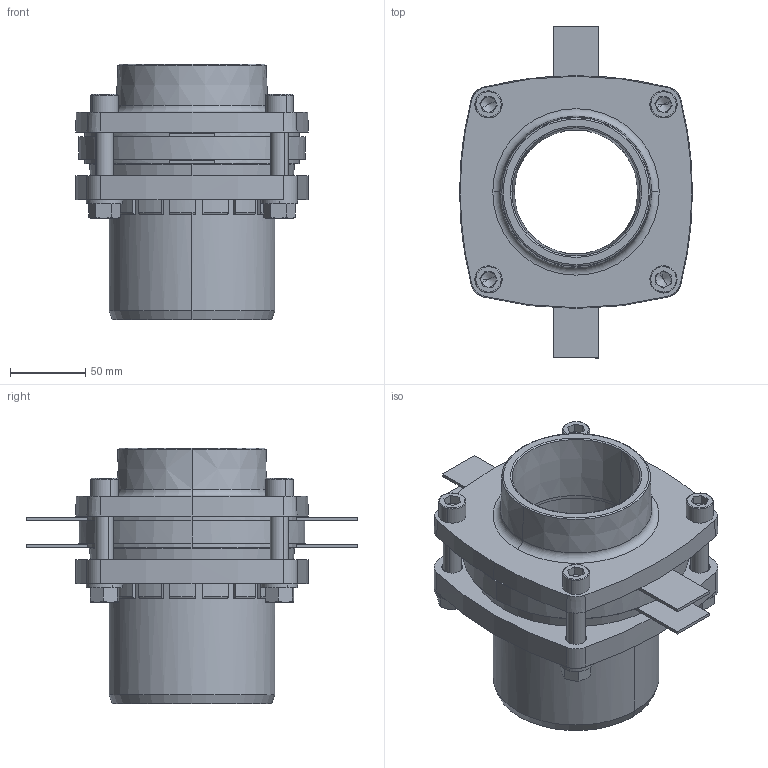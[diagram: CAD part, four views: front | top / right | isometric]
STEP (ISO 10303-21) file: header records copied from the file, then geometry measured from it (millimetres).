
FILE_DESCRIPTION (( 'STEP AP203' ), '1' );
FILE_NAME ('KP_C13-110-90F.step', '2011-08-08T12:01:39', ( '' ), ( '' ), 'SwSTEP 2.0', 'SolidWorks 2011', '' );
FILE_SCHEMA (( 'CONFIG_CONTROL_DESIGN' ));
Length unit declared in the file: millimetre
Products named in the file (1): KP_C13-110-90F
Bounding box: 154.3 x 220 x 169.5 mm (x, y, z)
Volume: 1114272.4 mm3; surface area: 224915.2 mm2
Topology: 1 solids, 3 shells, 499 faces, 1205 edges, 740 vertices
Faces by surface type: plane 233, cone 120, cylinder 105, torus 41
Entity records: 14783 total; most frequent: DIRECTION 2716, CARTESIAN_POINT 2709, ORIENTED_EDGE 2394, EDGE_CURVE 1197, AXIS2_PLACEMENT_3D 1067, VERTEX_POINT 740, VECTOR 582, LINE 582
